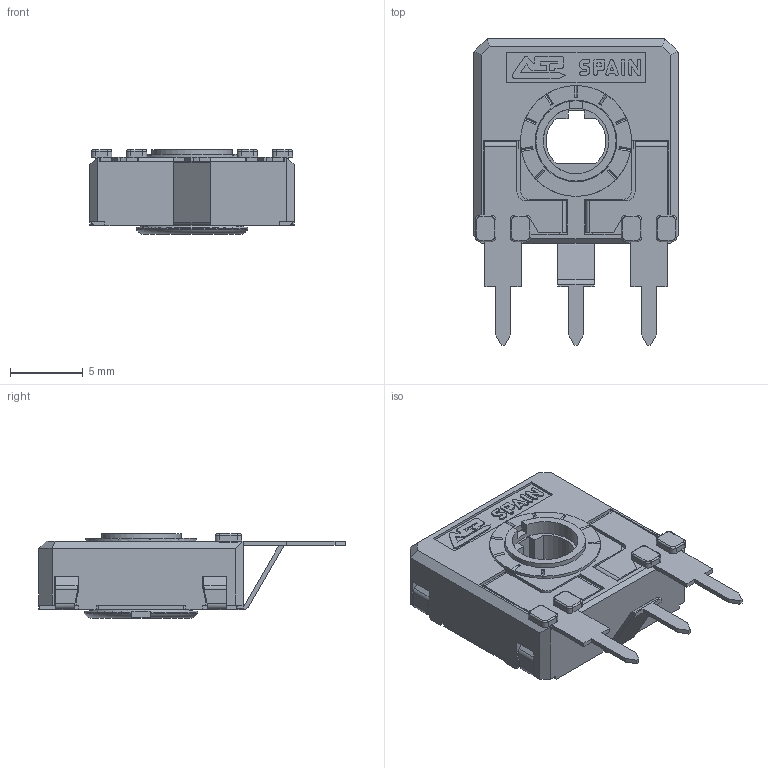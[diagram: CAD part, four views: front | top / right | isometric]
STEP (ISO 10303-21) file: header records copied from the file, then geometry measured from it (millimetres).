
FILE_DESCRIPTION(/* description */ (''),/* implementation_level */ '2;1');
FILE_NAME(/* name */ '\\SERVERACP\intercambio\Ignacio Santa Cecilia\Nueva WEB 2025\CA14 - CE14\CA14TH0.stp',/* time_stamp */ '2025-06-13T11:26:55+02:00',/* author */ ('CEM'),/* organization */ (''),/* preprocessor_version */ 'ST-DEVELOPER v17',/* originating_system */ 'Autodesk Inventor 2018',/* authorisation */ '');
FILE_SCHEMA (('AUTOMOTIVE_DESIGN { 1 0 10303 214 3 1 1 }'));
Length unit declared in the file: millimetre
Products named in the file (1): CARCASA CA14 PGA
Bounding box: 14 x 21 x 5.8 mm (x, y, z)
Volume: 530 mm3; surface area: 1468 mm2
Topology: 1 solids, 1 shells, 667 faces, 1885 edges, 1214 vertices
Faces by surface type: plane 495, cylinder 135, torus 23, bspline 8, cone 6
Full cylindrical faces by diameter (mm): 4.5 x1, 5.5 x1, 5.6 x1, 5.752 x1, 6.8 x1, 7.6 x1
Entity records: 21791 total; most frequent: CARTESIAN_POINT 4064, ORIENTED_EDGE 3770, DIRECTION 3516, EDGE_CURVE 1885, LINE 1484, VECTOR 1484, VERTEX_POINT 1214, AXIS2_PLACEMENT_3D 1016
